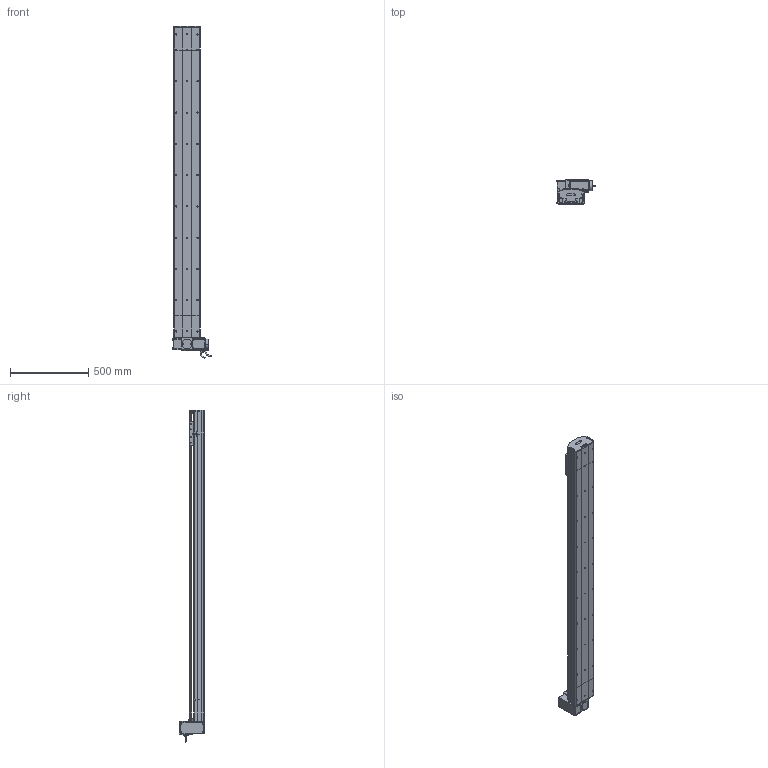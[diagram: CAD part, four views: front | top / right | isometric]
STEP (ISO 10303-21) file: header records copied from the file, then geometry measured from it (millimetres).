
FILE_DESCRIPTION (( 'STEP AP214' ), '1' );
FILE_NAME ('D17 TBH RT S1700.STEP', '2010-06-30T08:15:35', ( 'Christophe Gaillard' ), ( 'SGA' ), 'SwSTEP 2.0', 'SolidWorks 2010', '' );
FILE_SCHEMA (( 'AUTOMOTIVE_DESIGN' ));
Length unit declared in the file: millimetre
Products named in the file (40): plaque de  bout head D17B RT_Default; corpl head D17 _Default; Head RT D17B_Default; course 1700 D17B_Default; couvercle D17B course L1700_Default; corp D17B 1700_Default; Couroie+ rail D17 Course 1700 ; couvercle D17B head_Default; Chariot D17; chariot D17S_Default; vis M5 L25_Default; vis M5 L12_Default; guide D17; couvercle D17B_Default; Couroie tail D17B_Default; vis M5 L8 90°_Default; poulie tail_Default; vis M5 L5_Default; cache D17_Default; Arbre+rail head D17B; Moteur motionking 90BLDC125A-640; couroie head D17_Default; poulie head_Default; Conecteur2_Default; codeur 90BLDC125-640; corps 90BLDC125A-640; avant 90BLDC125A-640; Plaque racord D17_Default; vis M5 L70_Default; Conecteur_Default; cache arbre D17_Default; Vis M5 L16-2_Default; vis M5 L16_Default; corp tail D17B+100_Default; Tail D17B+100_Default; Renvoi RT_Default; plaque de  bout tail D17B_Default; Rail D17B; tete d''axe poulie D17B; D17 TBH RT S1700
Assembly tree (70 placements, depth 4):
  D17 TBH RT S1700
    course 1700 D17B_Default
      couvercle D17B course L1700_Default
      Couroie+ rail D17 Course 1700 
      corp D17B 1700_Default
    chariot D17S_Default
      vis M5 L12_Default  x4
      guide D17  x2
      Chariot D17
    Tail D17B+100_Default
      vis M5 L8 90°_Default  x2
      vis M5 L12_Default  x4
      corp tail D17B+100_Default
      plaque de  bout tail D17B_Default
      vis M5 L25_Default  x2
      Rail D17B
      couvercle D17B_Default
      poulie tail_Default
      Couroie tail D17B_Default
      tete d''axe poulie D17B
    Head RT D17B_Default
      Vis M5 L16-2_Default  x4
      vis M5 L12_Default  x8
      Arbre+rail head D17B
      couvercle D17B head_Default
      poulie head_Default
      vis M5 L5_Default  x4
      cache D17_Default  x2
      plaque de  bout head D17B RT_Default
      vis M5 L70_Default  x4
      corpl head D17 _Default
      Renvoi RT_Default
      Plaque racord D17_Default
      cache arbre D17_Default
      vis M5 L16_Default  x2
      vis M5 L25_Default  x2
      couroie head D17_Default
      Moteur motionking 90BLDC125A-640
        Conecteur_Default
        avant 90BLDC125A-640
        Conecteur2_Default
        codeur 90BLDC125-640
        corps 90BLDC125A-640
Bounding box: 245.2 x 166.15 x 2123.95 mm (x, y, z)
Volume: 12767708.1 mm3; surface area: 3642616.3 mm2
Topology: 94 solids, 94 shells, 2705 faces, 6839 edges, 4402 vertices
Faces by surface type: plane 1611, cylinder 781, bspline 136, cone 88, torus 85, sphere 4
Entity records: 84970 total; most frequent: CARTESIAN_POINT 25067, ORIENTED_EDGE 10450, DIRECTION 9910, EDGE_CURVE 5225, VECTOR 3472, LINE 3472, VERTEX_POINT 3426, AXIS2_PLACEMENT_3D 3219
